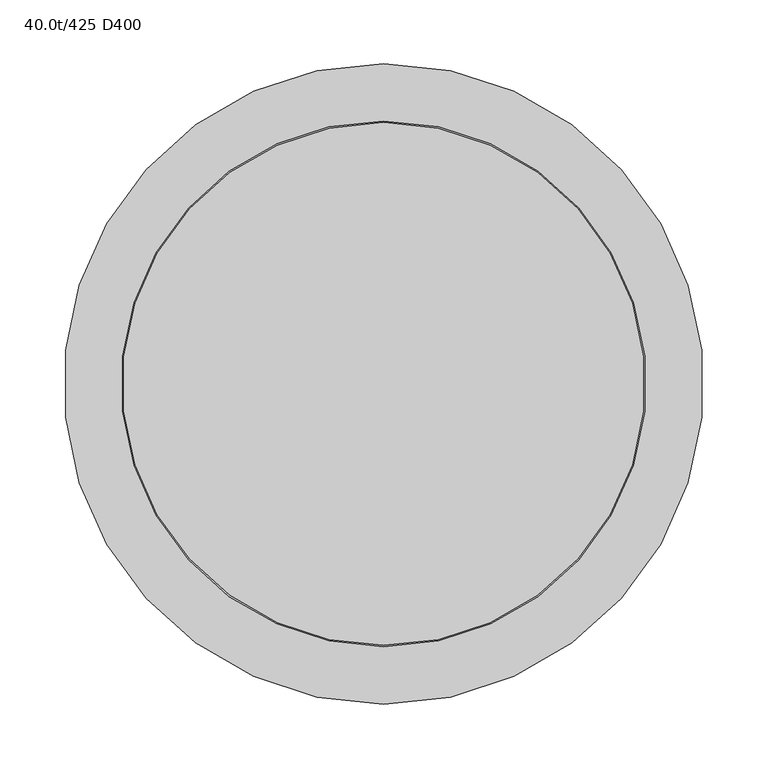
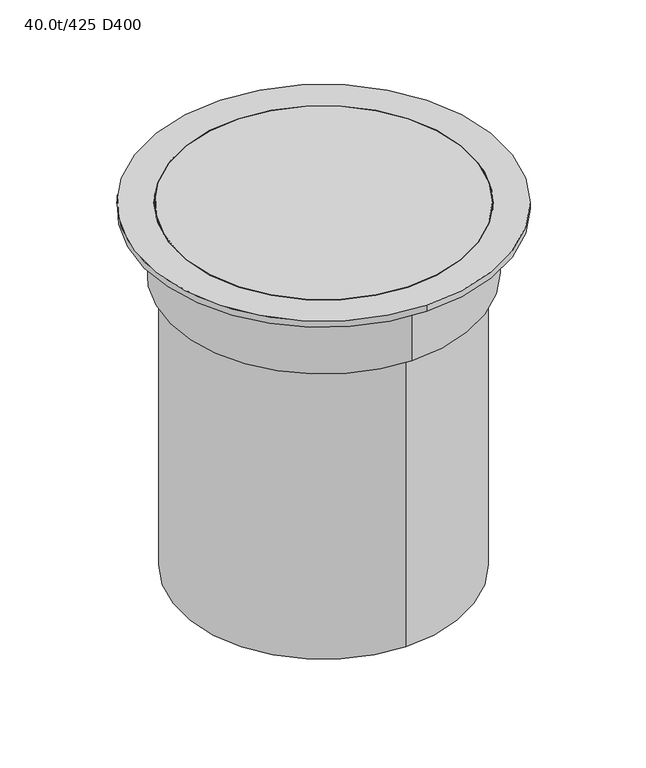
"""IFC4 building model written with IfcOpenShell, lengths in millimetres: valve geometry, Pipelife - Studnia PRO - Teleskop 425 : 40.0t/425 D400."""

from ifc_helpers import new_model, si_unit, point, frame, origin, origin_with_axes, origin_2d, place, context, project, spatial, polyline, circle_curve, trimmed, segment, composite_curve, outline, extrude, source, transform, mapped, element, save
from ifc_brep_helpers import plane_surface, cylinder_surface, revolved_surface, advanced_brep


def valve_40_0t_425_d400_60aed603(model_context):
    return source(origin(), model_context, "Body", "SolidModel", [
        extrude(outline(composite_curve([segment(trimmed(circle_curve(origin_2d(), 205.0), [point((0.0, 205.0))], [point((0.0, -205.0))], False, "CARTESIAN"), True, "CONTINUOUS"), segment(trimmed(circle_curve(origin_2d(), 205.0), [point((0.0, -205.0))], [point((0.0, 205.0))], False, "CARTESIAN"), True, "CONTINUOUS")], self_intersect=False)), frame((0.0, 0.0, 524.0), z_axis=(0.0, 0.0, 1.0), x_axis=(1.0, 0.0, 0.0)), (0.0, 0.0, 1.0), 13.0),
        advanced_brep(
        [(0.0, 214.5, 528.0), (0.0, -214.5, 528.0), (0.0, -206.0, 528.0), (0.0, 206.0, 528.0), (0.0, 214.5, 433.0), (0.0, -214.5, 433.0), (0.0, 191.5, 433.0), (0.0, -191.5, 433.0), (0.0, 191.5, 524.0), (0.0, -191.5, 524.0), (0.0, 206.0, 524.0), (0.0, -206.0, 524.0)],
        [
            (0, 1, circle_curve(frame((0.0, 0.0, 528.0), z_axis=(0.0, 0.0, 1.0), x_axis=(0.0, -1.0, 0.0)), 214.5)),
            (1, 0, circle_curve(frame((0.0, 0.0, 528.0), z_axis=(0.0, 0.0, 1.0), x_axis=(0.0, -1.0, 0.0)), 214.5)),
            (2, 3, circle_curve(frame((0.0, 0.0, 528.0), z_axis=(0.0, 0.0, -1.0), x_axis=(0.0, -1.0, 0.0)), 206.0)),
            (3, 2, circle_curve(frame((0.0, 0.0, 528.0), z_axis=(0.0, 0.0, -1.0), x_axis=(0.0, -1.0, 0.0)), 206.0)),
            (4, 5, circle_curve(frame((0.0, 0.0, 433.0), z_axis=(0.0, 0.0, -1.0), x_axis=(0.0, -1.0, 0.0)), 214.5)),
            (5, 4, circle_curve(frame((0.0, 0.0, 433.0), z_axis=(0.0, 0.0, -1.0), x_axis=(0.0, -1.0, 0.0)), 214.5)),
            (6, 7, circle_curve(frame((0.0, 0.0, 433.0), z_axis=(0.0, 0.0, 1.0), x_axis=(0.0, -1.0, 0.0)), 191.5)),
            (7, 6, circle_curve(frame((0.0, 0.0, 433.0), z_axis=(0.0, 0.0, 1.0), x_axis=(0.0, -1.0, 0.0)), 191.5)),
            (0, 4),
            (5, 1),
            (6, 8),
            (8, 9, circle_curve(frame((0.0, 0.0, 524.0), z_axis=(0.0, 0.0, 1.0), x_axis=(0.0, -1.0, 0.0)), 191.5)),
            (9, 7),
            (9, 8, circle_curve(frame((0.0, 0.0, 524.0), z_axis=(0.0, 0.0, 1.0), x_axis=(0.0, -1.0, 0.0)), 191.5)),
            (10, 11, circle_curve(frame((0.0, 0.0, 524.0), z_axis=(0.0, 0.0, 1.0), x_axis=(0.0, -1.0, 0.0)), 206.0)),
            (11, 10, circle_curve(frame((0.0, 0.0, 524.0), z_axis=(0.0, 0.0, 1.0), x_axis=(0.0, -1.0, 0.0)), 206.0)),
            (10, 3),
            (2, 11),
        ],
        [
            plane_surface(frame((0.0, 0.0, 528.0), z_axis=(0.0, 0.0, 1.0), x_axis=(0.0, -1.0, 0.0))),
            plane_surface(frame((0.0, 0.0, 433.0), z_axis=(0.0, 0.0, -1.0), x_axis=(0.0, -1.0, 0.0))),
            cylinder_surface(frame((0.0, 0.0, 528.0), z_axis=(0.0, 0.0, 1.0), x_axis=(0.0, -1.0, 0.0)), 214.5),
            revolved_surface(polyline([(0.0, -191.5, 524.0), (0.0, -191.5, 433.0)]), (0.0, 0.0, 524.0), (0.0, 0.0, 1.0)),
            plane_surface(frame((0.0, 0.0, 524.0), z_axis=(0.0, 0.0, 1.0), x_axis=(0.0, -1.0, 0.0))),
            revolved_surface(polyline([(0.0, -206.0, 528.0), (0.0, -206.0, 524.0)]), (0.0, 0.0, 537.0), (0.0, 0.0, 1.0)),
        ],
        [
            (0, [[1, 2], [3, 4]]),
            (1, [[5, 6], [7, 8]]),
            (2, [[-1, 9, -6, 10]]),
            (2, [[-2, -10, -5, -9]]),
            (3, [[11, 12, 13, -7]]),
            (3, [[-11, -8, -13, 14]]),
            (4, [[15, 16], [-12, -14]]),
            (5, [[-15, 17, -3, 18]]),
            (5, [[-16, -18, -4, -17]]),
        ],
    ),
        extrude(outline(composite_curve([segment(trimmed(circle_curve(origin_2d(), 200.0), [point((0.0, 200.0))], [point((0.0, -200.0))], False, "CARTESIAN"), True, "CONTINUOUS"), segment(trimmed(circle_curve(origin_2d(), 200.0), [point((0.0, -200.0))], [point((0.0, 200.0))], False, "CARTESIAN"), True, "CONTINUOUS")], self_intersect=False), holes=[composite_curve([segment(trimmed(circle_curve(origin_2d(), 191.5), [point((0.0, 191.5))], [point((0.0, -191.5))], True, "CARTESIAN"), True, "CONTINUOUS"), segment(trimmed(circle_curve(origin_2d(), 191.5), [point((0.0, -191.5))], [point((0.0, 191.5))], True, "CARTESIAN"), True, "CONTINUOUS")], self_intersect=False)]), origin_with_axes(), (0.0, 0.0, 1.0), 433.0),
        extrude(outline(composite_curve([segment(trimmed(circle_curve(origin_2d(), 251.0), [point((0.0, 251.0))], [point((0.0, -251.0))], False, "CARTESIAN"), True, "CONTINUOUS"), segment(trimmed(circle_curve(origin_2d(), 251.0), [point((0.0, -251.0))], [point((0.0, 251.0))], False, "CARTESIAN"), True, "CONTINUOUS")], self_intersect=False), holes=[composite_curve([segment(trimmed(circle_curve(origin_2d(), 206.0), [point((0.0, 206.0))], [point((0.0, -206.0))], True, "CARTESIAN"), True, "CONTINUOUS"), segment(trimmed(circle_curve(origin_2d(), 206.0), [point((0.0, -206.0))], [point((0.0, 206.0))], True, "CARTESIAN"), True, "CONTINUOUS")], self_intersect=False)]), frame((0.0, 0.0, 528.0), z_axis=(0.0, 0.0, 1.0), x_axis=(1.0, 0.0, 0.0)), (0.0, 0.0, 1.0), 9.0),
    ])


if __name__ == "__main__":
    model = new_model("IFC4")
    model_context = context("Model", 3, world=origin())
    ifc_project = project(units=[si_unit("LENGTHUNIT", "METRE", prefix="MILLI")], contexts=[model_context])
    site = spatial("IfcSite", under=ifc_project)
    building = spatial("IfcBuilding", under=site)
    placement = place(None, origin())
    valve_40_0t_425_d400_shape = valve_40_0t_425_d400_60aed603(model_context)
    element("IfcValve", 1, ObjectType="Pipelife - Studnia PRO - Teleskop 425 : 40.0t/425 D400", at=placement, inside=building, context=model_context, shape_type="MappedRepresentation", body=[
        mapped(valve_40_0t_425_d400_shape, transform((0.0, 0.0, 0.0), x_axis=(1.0, 0.0, 0.0), y_axis=(0.0, 1.0, 0.0), z_axis=(0.0, 0.0, 1.0))),
    ])
    save(model, "model.ifc")
